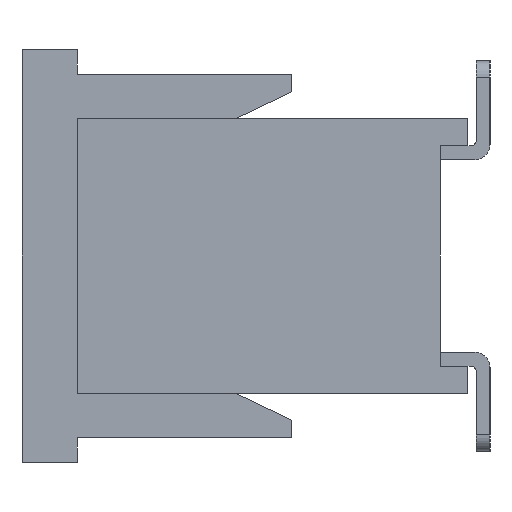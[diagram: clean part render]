
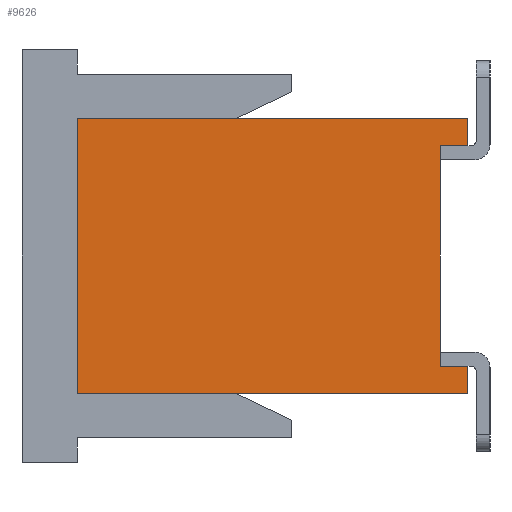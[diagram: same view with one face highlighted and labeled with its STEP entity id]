
A CAD part, left-side view. The second image highlights one B-rep face of the part: STEP entity #9626.
In plain terms, the highlighted planar face has unit normal (-1, 0, 0).
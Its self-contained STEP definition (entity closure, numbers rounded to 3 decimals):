
#26 = EDGE_CURVE ( 'NONE', #8165, #20576, #331, .T. ) ;
#331 = LINE ( 'NONE', #13144, #8197 ) ;
#840 = CARTESIAN_POINT ( 'NONE',  ( -12.7, 3.5, -4.5 ) ) ;
#1237 = DIRECTION ( 'NONE',  ( 0., 1., 0. ) ) ;
#1857 = EDGE_CURVE ( 'NONE', #2845, #11007, #10227, .T. ) ;
#1951 = VECTOR ( 'NONE', #15430, 1000. ) ;
#2179 = CARTESIAN_POINT ( 'NONE',  ( -12.7, 10.6, 0. ) ) ;
#2845 = VERTEX_POINT ( 'NONE', #15233 ) ;
#3011 = ORIENTED_EDGE ( 'NONE', *, *, #10065, .T. ) ;
#3408 = DIRECTION ( 'NONE',  ( 0., 0., 1. ) ) ;
#3434 = DIRECTION ( 'NONE',  ( 0., 0., 1. ) ) ;
#4466 = ORIENTED_EDGE ( 'NONE', *, *, #15489, .F. ) ;
#4999 = LINE ( 'NONE', #15991, #15650 ) ;
#5405 = VECTOR ( 'NONE', #9599, 1000. ) ;
#5877 = VERTEX_POINT ( 'NONE', #18926 ) ;
#6771 = EDGE_CURVE ( 'NONE', #11123, #5877, #20357, .T. ) ;
#7171 = CARTESIAN_POINT ( 'NONE',  ( -12.7, 4., -0.5 ) ) ;
#7315 = CARTESIAN_POINT ( 'NONE',  ( -12.7, 3.5, -5. ) ) ;
#7956 = VERTEX_POINT ( 'NONE', #11181 ) ;
#8039 = VECTOR ( 'NONE', #1237, 1000. ) ;
#8165 = VERTEX_POINT ( 'NONE', #19038 ) ;
#8197 = VECTOR ( 'NONE', #9925, 1000. ) ;
#8606 = CARTESIAN_POINT ( 'NONE',  ( -12.7, 10.6, -5. ) ) ;
#9346 = DIRECTION ( 'NONE',  ( 0., 0., 1. ) ) ;
#9457 = ORIENTED_EDGE ( 'NONE', *, *, #26, .F. ) ;
#9599 = DIRECTION ( 'NONE',  ( 0., 1., 0. ) ) ;
#9626 = ADVANCED_FACE ( 'NONE', ( #23375 ), #20014, .T. ) ;
#9663 = VECTOR ( 'NONE', #13674, 1000. ) ;
#9925 = DIRECTION ( 'NONE',  ( 0., -1., 0. ) ) ;
#9980 = LINE ( 'NONE', #17257, #9663 ) ;
#10065 = EDGE_CURVE ( 'NONE', #11123, #20576, #16873, .T. ) ;
#10227 = LINE ( 'NONE', #19183, #8039 ) ;
#10788 = ORIENTED_EDGE ( 'NONE', *, *, #14429, .T. ) ;
#11007 = VERTEX_POINT ( 'NONE', #2179 ) ;
#11123 = VERTEX_POINT ( 'NONE', #11863 ) ;
#11181 = CARTESIAN_POINT ( 'NONE',  ( -12.7, 3.5, -0.5 ) ) ;
#11393 = CARTESIAN_POINT ( 'NONE',  ( -12.7, 0., -5. ) ) ;
#11863 = CARTESIAN_POINT ( 'NONE',  ( -12.7, 3.5, -5. ) ) ;
#12807 = VECTOR ( 'NONE', #9346, 1000. ) ;
#13144 = CARTESIAN_POINT ( 'NONE',  ( -12.7, 1.75, -4.5 ) ) ;
#13674 = DIRECTION ( 'NONE',  ( 0., 0., -1. ) ) ;
#13758 = EDGE_LOOP ( 'NONE', ( #16656, #3011, #9457, #17041, #4466, #10788, #23249, #18159 ) ) ;
#14429 = EDGE_CURVE ( 'NONE', #7956, #2845, #4999, .T. ) ;
#15233 = CARTESIAN_POINT ( 'NONE',  ( -12.7, 3.5, 0. ) ) ;
#15430 = DIRECTION ( 'NONE',  ( 0., 1., 0. ) ) ;
#15489 = EDGE_CURVE ( 'NONE', #7956, #23078, #17108, .T. ) ;
#15650 = VECTOR ( 'NONE', #3434, 1000. ) ;
#15890 = DIRECTION ( 'NONE',  ( 0., 0., 1. ) ) ;
#15991 = CARTESIAN_POINT ( 'NONE',  ( -12.7, 3.5, -5. ) ) ;
#16242 = LINE ( 'NONE', #8606, #20730 ) ;
#16656 = ORIENTED_EDGE ( 'NONE', *, *, #6771, .F. ) ;
#16873 = LINE ( 'NONE', #7315, #12807 ) ;
#16926 = EDGE_CURVE ( 'NONE', #5877, #11007, #16242, .T. ) ;
#17041 = ORIENTED_EDGE ( 'NONE', *, *, #21528, .F. ) ;
#17108 = LINE ( 'NONE', #19015, #1951 ) ;
#17257 = CARTESIAN_POINT ( 'NONE',  ( -12.7, 4., -5. ) ) ;
#18159 = ORIENTED_EDGE ( 'NONE', *, *, #16926, .F. ) ;
#18926 = CARTESIAN_POINT ( 'NONE',  ( -12.7, 10.6, -5. ) ) ;
#19015 = CARTESIAN_POINT ( 'NONE',  ( -12.7, 1.75, -0.5 ) ) ;
#19038 = CARTESIAN_POINT ( 'NONE',  ( -12.7, 4., -4.5 ) ) ;
#19183 = CARTESIAN_POINT ( 'NONE',  ( -12.7, 0., 0. ) ) ;
#20014 = PLANE ( 'NONE',  #22353 ) ;
#20357 = LINE ( 'NONE', #11393, #5405 ) ;
#20576 = VERTEX_POINT ( 'NONE', #840 ) ;
#20730 = VECTOR ( 'NONE', #15890, 1000. ) ;
#21362 = DIRECTION ( 'NONE',  ( -1., 0., 0. ) ) ;
#21528 = EDGE_CURVE ( 'NONE', #23078, #8165, #9980, .T. ) ;
#22353 = AXIS2_PLACEMENT_3D ( 'NONE', #23491, #21362, #3408 ) ;
#23078 = VERTEX_POINT ( 'NONE', #7171 ) ;
#23249 = ORIENTED_EDGE ( 'NONE', *, *, #1857, .T. ) ;
#23375 = FACE_OUTER_BOUND ( 'NONE', #13758, .T. ) ;
#23491 = CARTESIAN_POINT ( 'NONE',  ( -12.7, 0., -5. ) ) ;
